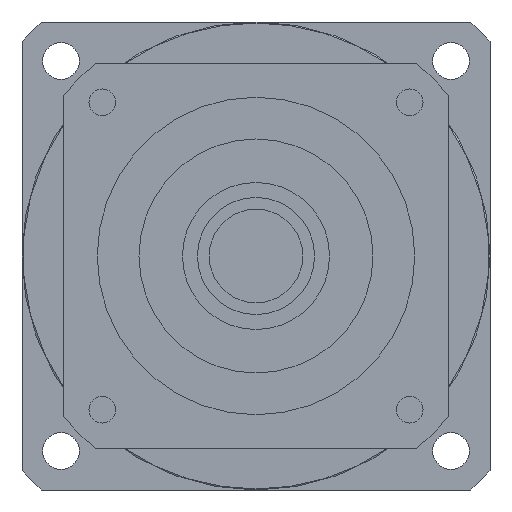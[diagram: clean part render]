
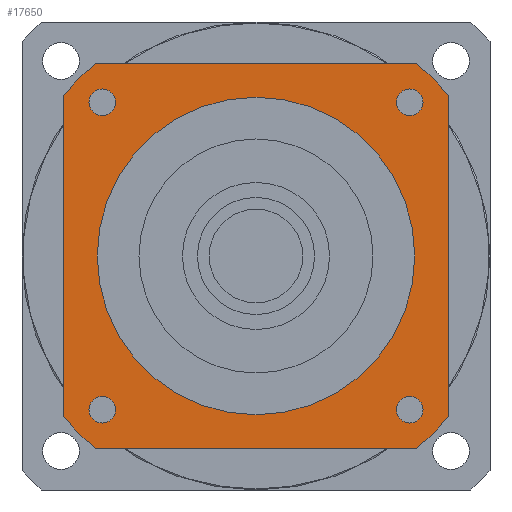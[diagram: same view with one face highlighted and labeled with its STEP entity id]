
A CAD part, left-side view. The second image highlights one B-rep face of the part: STEP entity #17650.
In plain terms, the highlighted planar face has unit normal (-1, 0, 0) as drawn and (0, 0, -1) by its records, which use the part's own axes.
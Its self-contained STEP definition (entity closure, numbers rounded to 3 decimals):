
#15370=CARTESIAN_POINT('',(57.5,48.153,-84.7));
#15380=VERTEX_POINT('',#15370);
#15410=CARTESIAN_POINT('',(57.5,57.5,-84.7));
#15420=DIRECTION('',(0.,-1.,0.));
#15430=VECTOR('',#15420,1000.);
#15440=LINE('',#15410,#15430);
#15450=CARTESIAN_POINT('',(57.5,-48.153,-84.7));
#15460=VERTEX_POINT('',#15450);
#15470=EDGE_CURVE('',#15380,#15460,#15440,.T.);
#15680=CARTESIAN_POINT('',(48.153,57.5,-84.7));
#15690=VERTEX_POINT('',#15680);
#15740=CARTESIAN_POINT('',(0.,0.,
-84.7));
#15750=DIRECTION('',(0.,0.,-1.));
#15760=DIRECTION('',(1.,0.,0.));
#15770=AXIS2_PLACEMENT_3D('',#15740,#15750,#15760);
#15780=CIRCLE('',#15770,75.);
#15790=EDGE_CURVE('',#15690,#15380,#15780,.T.);
#16030=CARTESIAN_POINT('',(48.153,-57.5,-84.7));
#16040=VERTEX_POINT('',#16030);
#16070=CARTESIAN_POINT('',(57.5,-57.5,-84.7));
#16080=DIRECTION('',(-1.,0.,0.));
#16090=VECTOR('',#16080,1000.);
#16100=LINE('',#16070,#16090);
#16110=CARTESIAN_POINT('',(-48.153,-57.5,-84.7));
#16120=VERTEX_POINT('',#16110);
#16130=EDGE_CURVE('',#16040,#16120,#16100,.T.);
#16310=CARTESIAN_POINT('',(0.,0.,
-84.7));
#16320=DIRECTION('',(0.,0.,-1.));
#16330=DIRECTION('',(1.,0.,0.));
#16340=AXIS2_PLACEMENT_3D('',#16310,#16320,#16330);
#16350=CIRCLE('',#16340,75.);
#16360=EDGE_CURVE('',#15460,#16040,#16350,.T.);
#16430=CARTESIAN_POINT('',(57.5,57.5,-84.7));
#16440=DIRECTION('',(0.,0.,-1.));
#16450=DIRECTION('',(1.,0.,0.));
#16460=AXIS2_PLACEMENT_3D('',#16430,#16440,#16450);
#16470=PLANE('',#16460);
#16480=CARTESIAN_POINT('',(-45.962,45.962,-84.7));
#16490=DIRECTION('',(0.,0.,-1.));
#16500=DIRECTION('',(-1.,0.,0.));
#16510=AXIS2_PLACEMENT_3D('',#16480,#16490,#16500);
#16520=CIRCLE('',#16510,4.);
#16530=CARTESIAN_POINT('',(-49.962,45.962,-84.7));
#16540=VERTEX_POINT('',#16530);
#16550=CARTESIAN_POINT('',(-41.962,45.962,-84.7));
#16560=VERTEX_POINT('',#16550);
#16570=EDGE_CURVE('',#16540,#16560,#16520,.T.);
#16580=ORIENTED_EDGE('',*,*,#16570,.F.);
#16590=EDGE_CURVE('',#16560,#16540,#16520,.T.);
#16600=ORIENTED_EDGE('',*,*,#16590,.F.);
#16610=EDGE_LOOP('',(#16600,#16580));
#16620=FACE_BOUND('',#16610,.T.);
#16630=CARTESIAN_POINT('',(45.962,45.962,-84.7));
#16640=DIRECTION('',(0.,0.,-1.));
#16650=DIRECTION('',(0.,1.,0.));
#16660=AXIS2_PLACEMENT_3D('',#16630,#16640,#16650);
#16670=CIRCLE('',#16660,4.);
#16680=CARTESIAN_POINT('',(45.962,49.962,-84.7));
#16690=VERTEX_POINT('',#16680);
#16700=CARTESIAN_POINT('',(45.962,41.962,-84.7));
#16710=VERTEX_POINT('',#16700);
#16720=EDGE_CURVE('',#16690,#16710,#16670,.T.);
#16730=ORIENTED_EDGE('',*,*,#16720,.F.);
#16740=EDGE_CURVE('',#16710,#16690,#16670,.T.);
#16750=ORIENTED_EDGE('',*,*,#16740,.F.);
#16760=EDGE_LOOP('',(#16750,#16730));
#16770=FACE_BOUND('',#16760,.T.);
#16780=CARTESIAN_POINT('',(0.,0.,
-84.7));
#16790=DIRECTION('',(0.,0.,1.));
#16800=DIRECTION('',(0.,1.,0.));
#16810=AXIS2_PLACEMENT_3D('',#16780,#16790,#16800);
#16820=CIRCLE('',#16810,47.5);
#16830=CARTESIAN_POINT('',(-47.5,0.,-84.7));
#16840=VERTEX_POINT('',#16830);
#16850=CARTESIAN_POINT('',(47.5,0.,-84.7));
#16860=VERTEX_POINT('',#16850);
#16870=EDGE_CURVE('',#16840,#16860,#16820,.T.);
#16880=ORIENTED_EDGE('',*,*,#16870,.T.);
#16890=CARTESIAN_POINT('',(0.,47.5,-84.7));
#16900=VERTEX_POINT('',#16890);
#16910=EDGE_CURVE('',#16900,#16840,#16820,.T.);
#16920=ORIENTED_EDGE('',*,*,#16910,.T.);
#16930=EDGE_CURVE('',#16860,#16900,#16820,.T.);
#16940=ORIENTED_EDGE('',*,*,#16930,.T.);
#16950=EDGE_LOOP('',(#16940,#16920,#16880));
#16960=FACE_BOUND('',#16950,.T.);
#16970=CARTESIAN_POINT('',(45.962,-45.962,-84.7));
#16980=DIRECTION('',(0.,0.,-1.));
#16990=DIRECTION('',(1.,0.,0.));
#17000=AXIS2_PLACEMENT_3D('',#16970,#16980,#16990);
#17010=CIRCLE('',#17000,4.);
#17020=CARTESIAN_POINT('',(49.962,-45.962,-84.7));
#17030=VERTEX_POINT('',#17020);
#17040=CARTESIAN_POINT('',(41.962,-45.962,-84.7));
#17050=VERTEX_POINT('',#17040);
#17060=EDGE_CURVE('',#17030,#17050,#17010,.T.);
#17070=ORIENTED_EDGE('',*,*,#17060,.F.);
#17080=EDGE_CURVE('',#17050,#17030,#17010,.T.);
#17090=ORIENTED_EDGE('',*,*,#17080,.F.);
#17100=EDGE_LOOP('',(#17090,#17070));
#17110=FACE_BOUND('',#17100,.T.);
#17120=CARTESIAN_POINT('',(-45.962,-45.962,-84.7));
#17130=DIRECTION('',(0.,0.,-1.));
#17140=DIRECTION('',(0.,-1.,0.));
#17150=AXIS2_PLACEMENT_3D('',#17120,#17130,#17140);
#17160=CIRCLE('',#17150,4.);
#17170=CARTESIAN_POINT('',(-45.962,-49.962,-84.7));
#17180=VERTEX_POINT('',#17170);
#17190=CARTESIAN_POINT('',(-45.962,-41.962,-84.7));
#17200=VERTEX_POINT('',#17190);
#17210=EDGE_CURVE('',#17180,#17200,#17160,.T.);
#17220=ORIENTED_EDGE('',*,*,#17210,.F.);
#17230=EDGE_CURVE('',#17200,#17180,#17160,.T.);
#17240=ORIENTED_EDGE('',*,*,#17230,.F.);
#17250=EDGE_LOOP('',(#17240,#17220));
#17260=FACE_BOUND('',#17250,.T.);
#17270=CARTESIAN_POINT('',(-57.5,57.5,-84.7));
#17280=DIRECTION('',(1.,0.,0.));
#17290=VECTOR('',#17280,1000.);
#17300=LINE('',#17270,#17290);
#17310=CARTESIAN_POINT('',(-48.153,57.5,-84.7));
#17320=VERTEX_POINT('',#17310);
#17330=EDGE_CURVE('',#17320,#15690,#17300,.T.);
#17340=ORIENTED_EDGE('',*,*,#17330,.T.);
#17350=CARTESIAN_POINT('',(0.,0.,
-84.7));
#17360=DIRECTION('',(0.,0.,-1.));
#17370=DIRECTION('',(1.,0.,0.));
#17380=AXIS2_PLACEMENT_3D('',#17350,#17360,#17370);
#17390=CIRCLE('',#17380,75.);
#17400=CARTESIAN_POINT('',(-57.5,48.153,-84.7));
#17410=VERTEX_POINT('',#17400);
#17420=EDGE_CURVE('',#17410,#17320,#17390,.T.);
#17430=ORIENTED_EDGE('',*,*,#17420,.T.);
#17440=CARTESIAN_POINT('',(-57.5,-57.5,-84.7));
#17450=DIRECTION('',(0.,1.,0.));
#17460=VECTOR('',#17450,1000.);
#17470=LINE('',#17440,#17460);
#17480=CARTESIAN_POINT('',(-57.5,-48.153,-84.7));
#17490=VERTEX_POINT('',#17480);
#17500=EDGE_CURVE('',#17490,#17410,#17470,.T.);
#17510=ORIENTED_EDGE('',*,*,#17500,.T.);
#17520=CARTESIAN_POINT('',(0.,0.,
-84.7));
#17530=DIRECTION('',(0.,0.,-1.));
#17540=DIRECTION('',(1.,0.,0.));
#17550=AXIS2_PLACEMENT_3D('',#17520,#17530,#17540);
#17560=CIRCLE('',#17550,75.);
#17570=EDGE_CURVE('',#16120,#17490,#17560,.T.);
#17580=ORIENTED_EDGE('',*,*,#17570,.T.);
#17590=ORIENTED_EDGE('',*,*,#16130,.T.);
#17600=ORIENTED_EDGE('',*,*,#16360,.T.);
#17610=ORIENTED_EDGE('',*,*,#15470,.T.);
#17620=ORIENTED_EDGE('',*,*,#15790,.T.);
#17630=EDGE_LOOP('',(#17620,#17610,#17600,#17590,#17580,#17510,#17430,
#17340));
#17640=FACE_OUTER_BOUND('',#17630,.T.);
#17650=ADVANCED_FACE('',(#16620,#16770,#16960,#17110,#17260,#17640),
#16470,.T.);
